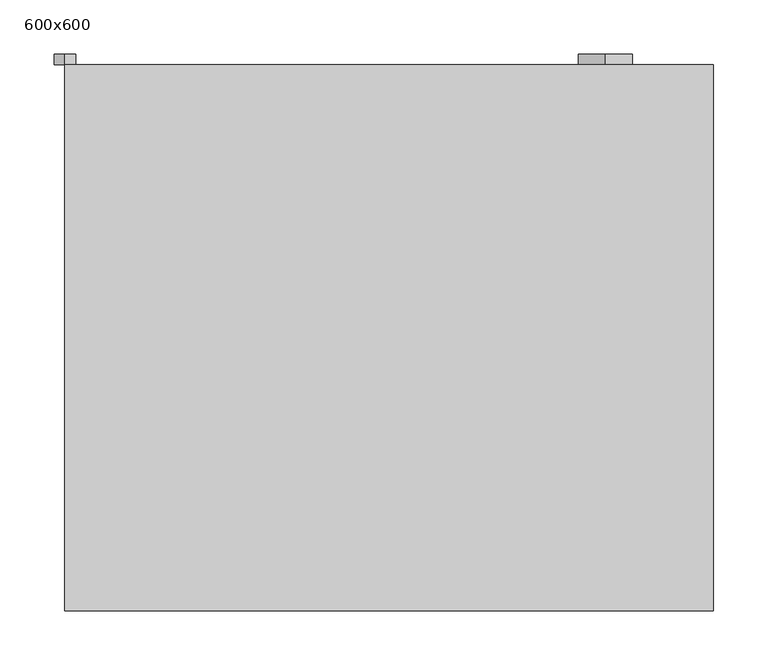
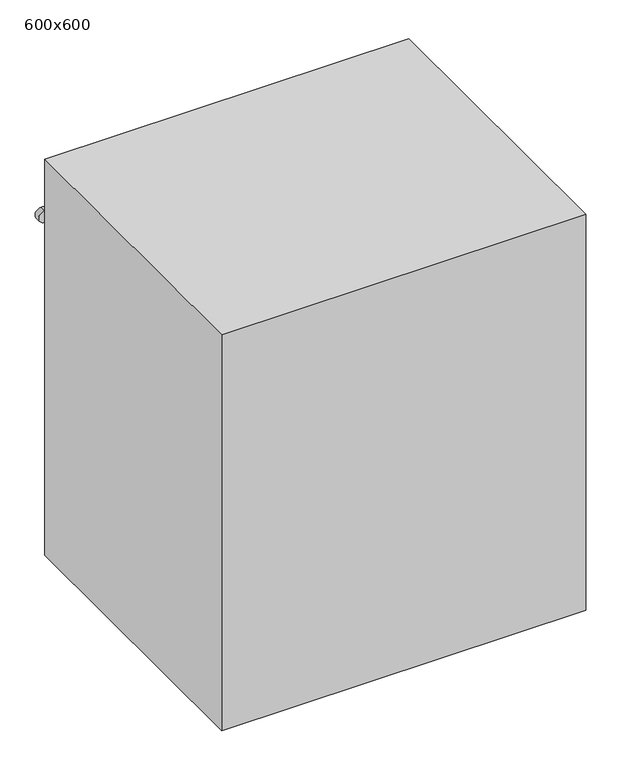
"""IFC4 building model written with IfcOpenShell, lengths in millimetres: flow terminal geometry, SP_посудомоечная машина_LEG : 600x600."""

from ifc_helpers import new_model, si_unit, frame, origin, place, context, project, spatial, circle_curve, source, transform, mapped, element, save
from ifc_brep_helpers import plane_surface, cylinder_surface, advanced_brep


def flow_terminal_600x600_a0c4e4de(model_context):
    return source(origin(), model_context, "Body", "AdvancedBrep", [
        advanced_brep(
        [(300.0, -600.0, 800.0), (300.0, -95.0, 800.0), (-300.0, -95.0, 800.0), (-300.0, -600.0, 800.0), (300.0, -600.0, 110.0), (-300.0, -600.0, 110.0), (-300.0, -95.0, 110.0), (300.0, -95.0, 110.0), (-300.0, -95.0, 710.0), (-300.0, -95.0, 690.0), (200.0, -95.0, 725.0), (200.0, -95.0, 675.0), (-300.0, -85.0, 690.0), (-300.0, -85.0, 710.0), (200.0, -85.0, 675.0), (200.0, -85.0, 725.0)],
        [
            (0, 1),
            (1, 2),
            (2, 3),
            (3, 0),
            (4, 5),
            (5, 6),
            (6, 7),
            (7, 4),
            (3, 5),
            (4, 0),
            (2, 8),
            (8, 9),
            (9, 6),
            (1, 7),
            (9, 8, circle_curve(frame((-300.0, -95.0, 700.0), z_axis=(0.0, -1.0, 0.0), x_axis=(0.0, 0.0, 1.0)), 10.0)),
            (10, 11, circle_curve(frame((200.0, -95.0, 700.0), z_axis=(0.0, -1.0, 0.0), x_axis=(0.0, 0.0, 1.0)), 25.0)),
            (11, 10, circle_curve(frame((200.0, -95.0, 700.0), z_axis=(0.0, -1.0, 0.0), x_axis=(0.0, 0.0, 1.0)), 25.0)),
            (12, 13, circle_curve(frame((-300.0, -85.0, 700.0), z_axis=(0.0, 1.0, 0.0), x_axis=(0.0, 0.0, 1.0)), 10.0)),
            (13, 12, circle_curve(frame((-300.0, -85.0, 700.0), z_axis=(0.0, 1.0, 0.0), x_axis=(0.0, 0.0, 1.0)), 10.0)),
            (13, 8),
            (9, 12),
            (9, 8, circle_curve(frame((-300.0, -95.0, 700.0), z_axis=(0.0, 1.0, 0.0), x_axis=(0.0, 0.0, 1.0)), 10.0)),
            (14, 15, circle_curve(frame((200.0, -85.0, 700.0), z_axis=(0.0, 1.0, 0.0), x_axis=(0.0, 0.0, 1.0)), 25.0)),
            (15, 14, circle_curve(frame((200.0, -85.0, 700.0), z_axis=(0.0, 1.0, 0.0), x_axis=(0.0, 0.0, 1.0)), 25.0)),
            (15, 10),
            (11, 14),
        ],
        [
            plane_surface(frame((-300.0, -600.0, 800.0), z_axis=(0.0, 0.0, 1.0), x_axis=(-1.0, 0.0, 0.0))),
            plane_surface(frame((-300.0, -600.0, 110.0), z_axis=(0.0, 0.0, -1.0), x_axis=(1.0, 0.0, 0.0))),
            plane_surface(frame((300.0, -600.0, 800.0), z_axis=(0.0, -1.0, 0.0), x_axis=(0.0, 0.0, -1.0))),
            plane_surface(frame((-300.0, -600.0, 800.0), z_axis=(-1.0, 0.0, 0.0), x_axis=(0.0, 0.0, -1.0))),
            plane_surface(frame((-300.0, -95.0, 800.0), z_axis=(0.0, 1.0, 0.0), x_axis=(0.0, 0.0, -1.0))),
            plane_surface(frame((300.0, -95.0, 800.0), z_axis=(1.0, 0.0, 0.0), x_axis=(0.0, 0.0, -1.0))),
            plane_surface(frame((-300.0, -85.0, 700.0), z_axis=(0.0, 1.0, 0.0), x_axis=(1.0, 0.0, 0.0))),
            cylinder_surface(frame((-300.0, -85.0, 700.0), z_axis=(0.0, 1.0, 0.0), x_axis=(0.0, 0.0, 1.0)), 10.0),
            plane_surface(frame((200.0, -85.0, 700.0), z_axis=(0.0, 1.0, 0.0), x_axis=(1.0, 0.0, 0.0))),
            cylinder_surface(frame((200.0, -85.0, 700.0), z_axis=(0.0, 1.0, 0.0), x_axis=(0.0, 0.0, 1.0)), 25.0),
            plane_surface(frame((-300.0, -95.0, 700.0), z_axis=(0.0, -1.0, 0.0), x_axis=(1.0, 0.0, 0.0))),
        ],
        [
            (0, [[1, 2, 3, 4]]),
            (1, [[5, 6, 7, 8]]),
            (2, [[9, -5, 10, -4]]),
            (3, [[11, 12, 13, -6, -9, -3]]),
            (4, [[14, -7, -13, 15, -11, -2], [16, 17]]),
            (5, [[-10, -8, -14, -1]]),
            (6, [[18, 19]]),
            (7, [[20, -15, 21, -19]]),
            (7, [[-20, -18, -21, 22]]),
            (8, [[23, 24]]),
            (9, [[25, -17, 26, -24]]),
            (9, [[-26, -16, -25, -23]]),
            (10, [[-12, -22]]),
        ],
    ),
    ])


if __name__ == "__main__":
    model = new_model("IFC4")
    model_context = context("Model", 3, world=origin())
    ifc_project = project(units=[si_unit("LENGTHUNIT", "METRE", prefix="MILLI")], contexts=[model_context])
    site = spatial("IfcSite", under=ifc_project)
    building = spatial("IfcBuilding", under=site)
    placement = place(None, origin())
    flow_terminal_600x600_shape = flow_terminal_600x600_a0c4e4de(model_context)
    element("IfcFlowTerminal", 1, ObjectType="SP_посудомоечная машина_LEG : 600x600", at=placement, inside=building, context=model_context, shape_type="MappedRepresentation", body=[
        mapped(flow_terminal_600x600_shape, transform((0.0, 0.0, 0.0), x_axis=(1.0, 0.0, 0.0), y_axis=(0.0, 1.0, 0.0), z_axis=(0.0, 0.0, 1.0))),
    ])
    save(model, "model.ifc")
